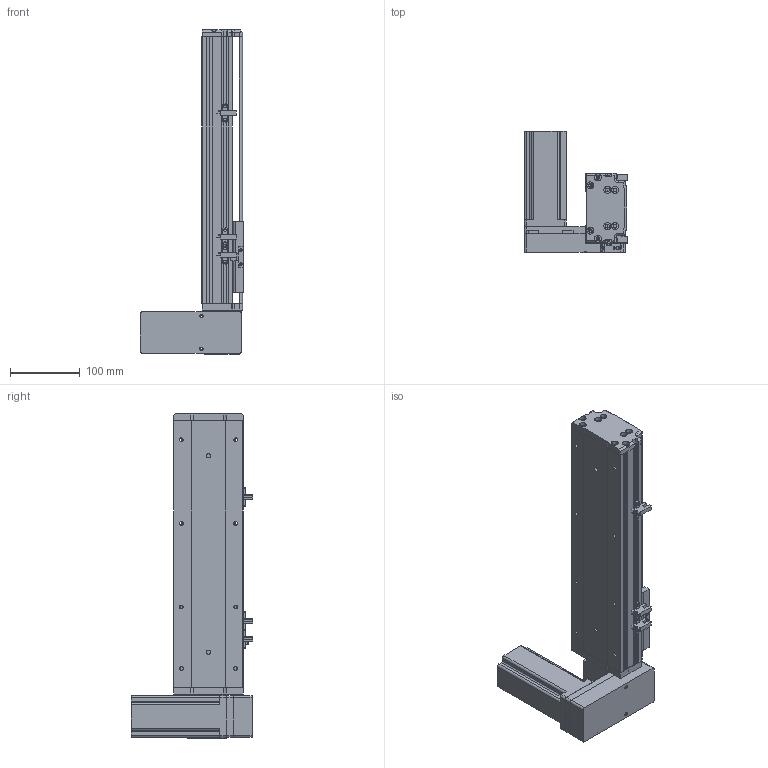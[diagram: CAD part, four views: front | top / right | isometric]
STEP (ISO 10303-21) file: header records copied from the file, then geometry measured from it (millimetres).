
FILE_DESCRIPTION (( 'STEP AP214' ), '1' );
FILE_NAME ('KSD100B-S200-MRD-CM .STEP', '2019-10-16T07:18:21', ( '微软用户' ), ( '微软中国' ), 'SwSTEP 2.0', 'SolidWorks 2014', '' );
FILE_SCHEMA (( 'AUTOMOTIVE_DESIGN' ));
Length unit declared in the file: millimetre
Products named in the file (12): 悵誘欶奻狟殏; 100宽马达安装板连板上下折丝杆同步带; 台达ECMA－C20604AS伺服电机; U倰嫖萇EEㄜSX672; 覜茼え100遵圉猾敕; 100宽防尘板200行程-同步带; 100宽马达安装板同步带右; 100宽同步带安装板半封闭; 100宽马达安装板同步带; 100遵傷啣肮祭湍; 100宽底板半封闭同步带200行程; KSD100B-S200-MRD-CM 
Assembly tree (13 placements, depth 2):
  KSD100B-S200-MRD-CM 
    100宽底板半封闭同步带200行程
    100遵傷啣肮祭湍
    100宽马达安装板同步带
    100宽同步带安装板半封闭
    100宽马达安装板同步带右
    100宽防尘板200行程-同步带
    覜茼え100遵圉猾敕
    U倰嫖萇EEㄜSX672  x3
    台达ECMA－C20604AS伺服电机
    100宽马达安装板连板上下折丝杆同步带
    悵誘欶奻狟殏
Bounding box: 148 x 174.7 x 465 mm (x, y, z)
Volume: 1492565.5 mm3; surface area: 449602.1 mm2
Topology: 14 solids, 14 shells, 1249 faces, 3480 edges, 2247 vertices
Faces by surface type: cylinder 599, plane 567, cone 83
Entity records: 42541 total; most frequent: CARTESIAN_POINT 7480, DIRECTION 5972, ORIENTED_EDGE 5700, EDGE_CURVE 2850, AXIS2_PLACEMENT_3D 2157, VERTEX_POINT 1871, VECTOR 1658, LINE 1658
